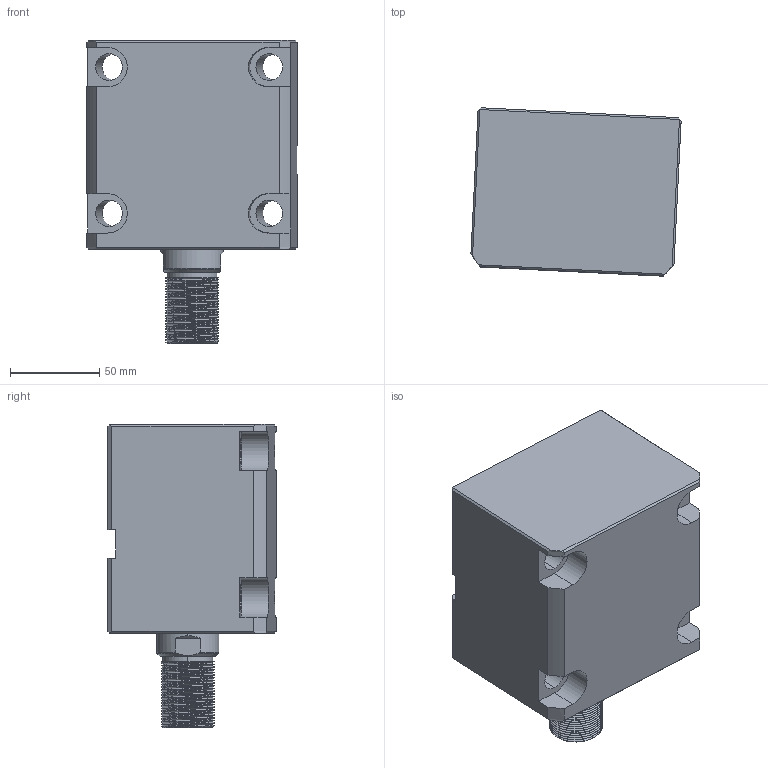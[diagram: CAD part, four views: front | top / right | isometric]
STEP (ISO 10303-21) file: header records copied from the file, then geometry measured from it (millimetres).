
FILE_DESCRIPTION (( 'STEP AP214' ), '1' );
FILE_NAME ('chtb-lam63x50w_asm.STEP', '2018-05-22T03:39:02', ( 'Windows' ), ( 'Microsoft' ), 'SwSTEP 2.0', 'SolidWorks 2015', '' );
FILE_SCHEMA (( 'AUTOMOTIVE_DESIGN' ));
Length unit declared in the file: millimetre
Products named in the file (4): CHTB-LAM63X50NBT; CHTB63X50WHSG; CHTB-63QG; chtb-lam63x50w_asm
Assembly tree (3 placements, depth 2):
  chtb-lam63x50w_asm
    CHTB-63QG
    CHTB63X50WHSG
    CHTB-LAM63X50NBT
Bounding box: 117.82 x 94.2 x 170 mm (x, y, z)
Volume: 1026464.8 mm3; surface area: 150716.2 mm2
Topology: 3 solids, 3 shells, 229 faces, 681 edges, 463 vertices
Faces by surface type: cylinder 145, plane 54, bspline 15, cone 9, torus 6
Entity records: 23331 total; most frequent: CARTESIAN_POINT 17747, ORIENTED_EDGE 1354, DIRECTION 909, EDGE_CURVE 677, VERTEX_POINT 463, AXIS2_PLACEMENT_3D 330, EDGE_LOOP 252, VECTOR 249
